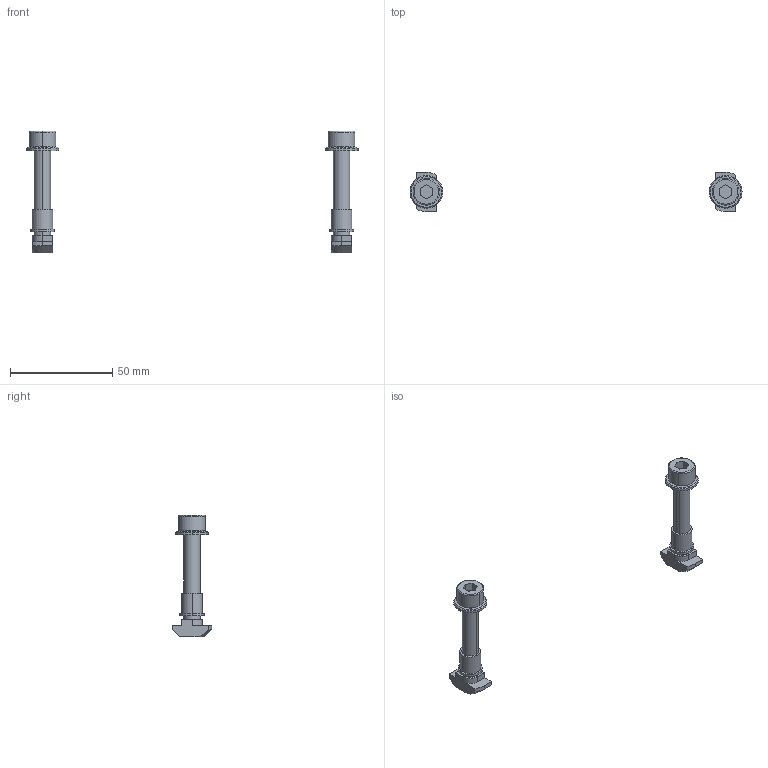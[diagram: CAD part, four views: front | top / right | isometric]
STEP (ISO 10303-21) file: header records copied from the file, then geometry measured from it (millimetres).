
FILE_DESCRIPTION (( 'STEP AP203' ), '1' );
FILE_NAME ('75000046 m. ZP.STEP', '2017-02-09T05:12:02', ( '' ), ( '' ), 'SwSTEP 2.0', 'SolidWorks 2015', '' );
FILE_SCHEMA (( 'CONFIG_CONTROL_DESIGN' ));
Length unit declared in the file: millimetre
Products named in the file (1): 75000046 m. ZP
Bounding box: 162 x 19.2 x 59.5 mm (x, y, z)
Volume: 9524.4 mm3; surface area: 6822.8 mm2
Topology: 2 solids, 2 shells, 118 faces, 273 edges, 176 vertices
Faces by surface type: plane 54, cylinder 44, cone 16, torus 4
Entity records: 3688 total; most frequent: CARTESIAN_POINT 836, DIRECTION 607, ORIENTED_EDGE 546, EDGE_CURVE 273, AXIS2_PLACEMENT_3D 227, VERTEX_POINT 176, VECTOR 153, LINE 153
